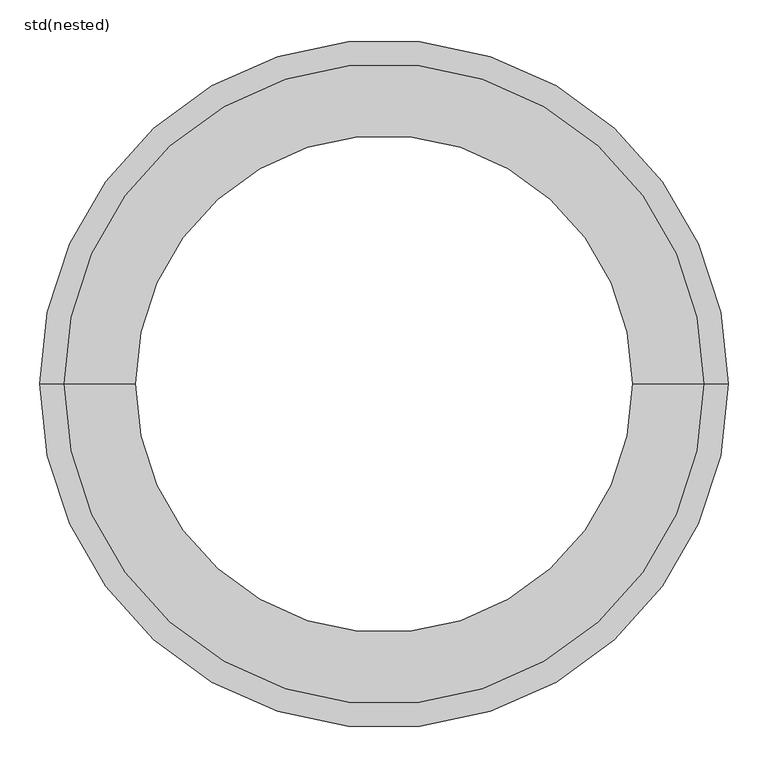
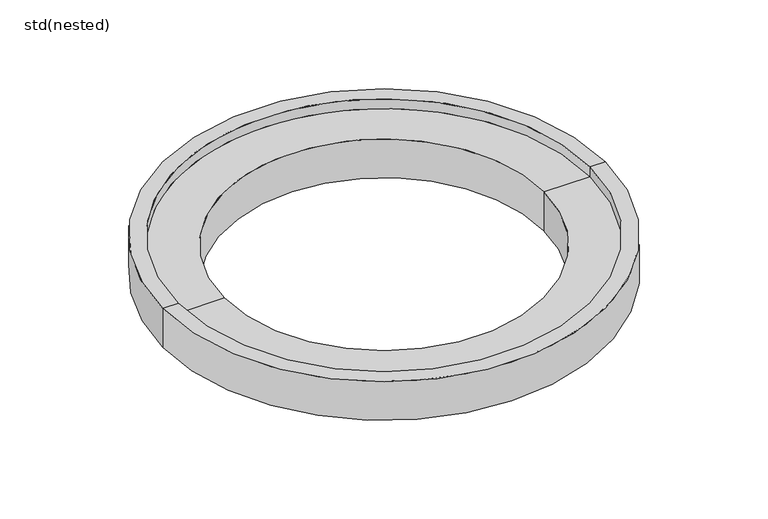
"""IFC4 building model written with IfcOpenShell, lengths in millimetres: unitary equipment geometry, ZZZ_do not use_ME_UN_concrete_bearing ring_ACO : std(nested)."""

from ifc_helpers import new_model, si_unit, frame, origin, place, context, project, spatial, polyline, circle_curve, source, transform, mapped, element, save
from ifc_brep_helpers import plane_surface, cylinder_surface, revolved_surface, advanced_brep


def std_nested_bba80288(model_context):
    return source(origin(), model_context, "Body", "AdvancedBrep", [
        advanced_brep(
        [(402.5, 0.0, -80.0), (-402.5, 0.0, -80.0), (-432.5, 0.0, -80.0), (432.5, 0.0, -80.0), (402.5, 0.0, -100.0), (-402.5, 0.0, -100.0), (312.5, 0.0, -100.0), (-312.5, 0.0, -100.0), (312.5, 0.0, -20.0), (-312.5, 0.0, -20.0), (402.5, 0.0, -20.0), (-402.5, 0.0, -20.0), (402.5, 0.0, 0.0), (-402.5, 0.0, 0.0), (432.5, 0.0, 0.0), (-432.5, 0.0, 0.0)],
        [
            (0, 1, circle_curve(frame((0.0, 0.0, -80.0), z_axis=(0.0, 0.0, 1.0), x_axis=(-1.0, 0.0, 0.0)), 402.5)),
            (1, 2),
            (2, 3, circle_curve(frame((0.0, 0.0, -80.0), z_axis=(0.0, 0.0, -1.0), x_axis=(-1.0, 0.0, 0.0)), 432.5)),
            (3, 0),
            (1, 0, circle_curve(frame((0.0, 0.0, -80.0), z_axis=(0.0, 0.0, 1.0), x_axis=(-1.0, 0.0, 0.0)), 402.5)),
            (3, 2, circle_curve(frame((0.0, 0.0, -80.0), z_axis=(0.0, 0.0, -1.0), x_axis=(-1.0, 0.0, 0.0)), 432.5)),
            (4, 5, circle_curve(frame((0.0, 0.0, -100.0), z_axis=(0.0, 0.0, 1.0), x_axis=(-1.0, 0.0, 0.0)), 402.5)),
            (5, 1),
            (0, 4),
            (5, 4, circle_curve(frame((0.0, 0.0, -100.0), z_axis=(0.0, 0.0, 1.0), x_axis=(-1.0, 0.0, 0.0)), 402.5)),
            (6, 7, circle_curve(frame((0.0, 0.0, -100.0), z_axis=(0.0, 0.0, 1.0), x_axis=(-1.0, 0.0, 0.0)), 312.5)),
            (7, 5),
            (4, 6),
            (7, 6, circle_curve(frame((0.0, 0.0, -100.0), z_axis=(0.0, 0.0, 1.0), x_axis=(-1.0, 0.0, 0.0)), 312.5)),
            (8, 9, circle_curve(frame((0.0, 0.0, -20.0), z_axis=(0.0, 0.0, 1.0), x_axis=(-1.0, 0.0, 0.0)), 312.5)),
            (9, 7),
            (6, 8),
            (9, 8, circle_curve(frame((0.0, 0.0, -20.0), z_axis=(0.0, 0.0, 1.0), x_axis=(-1.0, 0.0, 0.0)), 312.5)),
            (10, 11, circle_curve(frame((0.0, 0.0, -20.0), z_axis=(0.0, 0.0, 1.0), x_axis=(-1.0, 0.0, 0.0)), 402.5)),
            (11, 9),
            (8, 10),
            (11, 10, circle_curve(frame((0.0, 0.0, -20.0), z_axis=(0.0, 0.0, 1.0), x_axis=(-1.0, 0.0, 0.0)), 402.5)),
            (12, 13, circle_curve(frame((0.0, 0.0, 0.0), z_axis=(0.0, 0.0, 1.0), x_axis=(-1.0, 0.0, 0.0)), 402.5)),
            (13, 11),
            (10, 12),
            (13, 12, circle_curve(frame((0.0, 0.0, 0.0), z_axis=(0.0, 0.0, 1.0), x_axis=(-1.0, 0.0, 0.0)), 402.5)),
            (14, 15, circle_curve(frame((0.0, 0.0, 0.0), z_axis=(0.0, 0.0, 1.0), x_axis=(-1.0, 0.0, 0.0)), 432.5)),
            (15, 13),
            (12, 14),
            (15, 14, circle_curve(frame((0.0, 0.0, 0.0), z_axis=(0.0, 0.0, 1.0), x_axis=(-1.0, 0.0, 0.0)), 432.5)),
            (2, 15),
            (14, 3),
        ],
        [
            plane_surface(frame((0.0, 0.0, -80.0), z_axis=(0.0, 0.0, -1.0), x_axis=(-1.0, 0.0, 0.0))),
            cylinder_surface(frame((0.0, 0.0, 0.0), z_axis=(0.0, 0.0, -1.0), x_axis=(-1.0, 0.0, 0.0)), 402.5),
            plane_surface(frame((0.0, 0.0, -100.0), z_axis=(0.0, 0.0, -1.0), x_axis=(-1.0, 0.0, 0.0))),
            revolved_surface(polyline([(-312.5, 0.0, -100.0), (-312.5, 0.0, -20.0)]), (0.0, 0.0, 0.0), (0.0, 0.0, -1.0)),
            plane_surface(frame((0.0, 0.0, -20.0), z_axis=(0.0, 0.0, 1.0), x_axis=(-1.0, 0.0, 0.0))),
            revolved_surface(polyline([(-402.5, 0.0, -20.0), (-402.5, 0.0, 0.0)]), (0.0, 0.0, 0.0), (0.0, 0.0, -1.0)),
            plane_surface(frame((0.0, 0.0, 0.0), z_axis=(0.0, 0.0, 1.0), x_axis=(-1.0, 0.0, 0.0))),
            cylinder_surface(frame((0.0, 0.0, 0.0), z_axis=(0.0, 0.0, -1.0), x_axis=(-1.0, 0.0, 0.0)), 432.5),
        ],
        [
            (0, [[1, 2, 3, 4]]),
            (0, [[5, -4, 6, -2]]),
            (1, [[7, 8, -1, 9]]),
            (1, [[10, -9, -5, -8]]),
            (2, [[11, 12, -7, 13]]),
            (2, [[14, -13, -10, -12]]),
            (3, [[15, 16, -11, 17]]),
            (3, [[18, -17, -14, -16]]),
            (4, [[19, 20, -15, 21]]),
            (4, [[22, -21, -18, -20]]),
            (5, [[23, 24, -19, 25]]),
            (5, [[26, -25, -22, -24]]),
            (6, [[27, 28, -23, 29]]),
            (6, [[30, -29, -26, -28]]),
            (7, [[-3, 31, -27, 32]]),
            (7, [[-6, -32, -30, -31]]),
        ],
    ),
    ])


if __name__ == "__main__":
    model = new_model("IFC4")
    model_context = context("Model", 3, world=origin())
    ifc_project = project(units=[si_unit("LENGTHUNIT", "METRE", prefix="MILLI")], contexts=[model_context])
    site = spatial("IfcSite", under=ifc_project)
    building = spatial("IfcBuilding", under=site)
    placement = place(None, origin())
    std_nested_shape = std_nested_bba80288(model_context)
    element("IfcUnitaryEquipment", 1, ObjectType="ZZZ_do not use_ME_UN_concrete_bearing ring_ACO : std(nested)", at=placement, inside=building, context=model_context, shape_type="MappedRepresentation", body=[
        mapped(std_nested_shape, transform((0.0, 0.0, 0.0), x_axis=(1.0, 0.0, 0.0), y_axis=(0.0, 1.0, 0.0), z_axis=(0.0, 0.0, 1.0))),
    ])
    save(model, "model.ifc")
